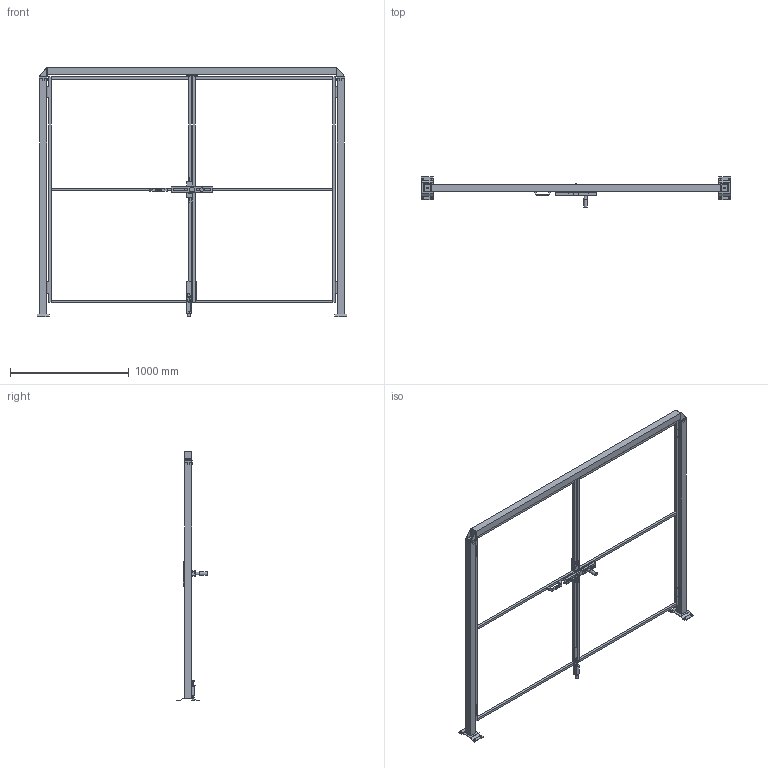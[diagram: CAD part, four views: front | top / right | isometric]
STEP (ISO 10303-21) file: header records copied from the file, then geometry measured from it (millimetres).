
FILE_DESCRIPTION(/* description */ (''),/* implementation_level */ '2;1');
FILE_NAME(/* name */ 'C:\SafeGuarding\ELABORATI\VZOR§DVOUKŘÍDLÉ_2025-02-03-10-27-59.stp',/* time_stamp */ '2025-02-03T10:28:04+01:00',/* author */ ('admin'),/* organization */ (''),/* preprocessor_version */ 'ST-DEVELOPER v18.1',/* originating_system */ 'AutoCAD Mechanical',/* authorisation */ '');
FILE_SCHEMA (('AUTOMOTIVE_DESIGN { 1 0 10303 214 3 1 1 }'));
Length unit declared in the file: millimetre
Products named in the file (5): Product; *U4; DATI_PORTA; P_VFMA.ME60SDU.2020; R_VFPA.REPE20.12001900
Assembly tree (6 placements, depth 2):
  Product
    R_VFPA.REPE20.12001900  x2
    P_VFMA.ME60SDU.2020  x2
    *U4
    DATI_PORTA
Bounding box: 2605 x 255.76 x 2100.5 mm (x, y, z)
Volume: 30292007.6 mm3; surface area: 3347664.3 mm2
Topology: 37 solids, 48 shells, 472 faces, 1507 edges, 1438 vertices
Faces by surface type: plane 428, cylinder 42, cone 2
Full cylindrical faces by diameter (mm): 11 x25, 12 x1, 14 x2, 24 x1, 30 x1
Entity records: 13565 total; most frequent: CARTESIAN_POINT 2816, DIRECTION 2051, ORIENTED_EDGE 1984, EDGE_CURVE 1041, LINE 985, VECTOR 985, VERTEX_POINT 729, AXIS2_PLACEMENT_3D 533
